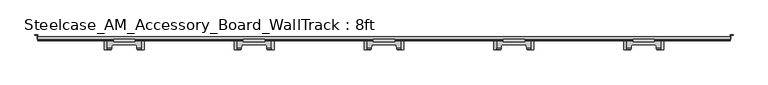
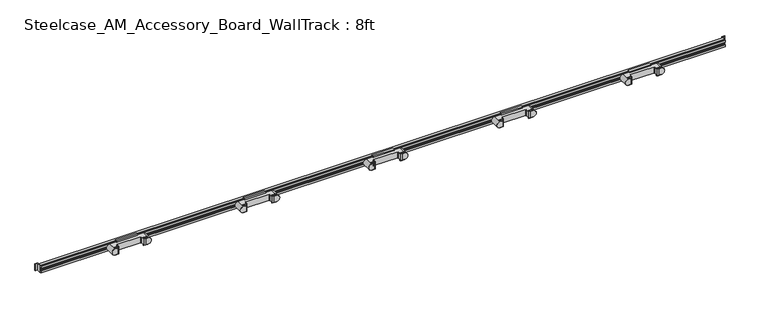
"""IFC4 building model written with IfcOpenShell, lengths in millimetres: furniture geometry, Steelcase_AM_Accessory_Board_WallTrack : 8ft."""

from ifc_helpers import new_model, si_unit, point, frame, frame_2d, origin, place, context, project, spatial, polyline, circle_curve, trimmed, segment, composite_curve, outline, extrude, source, transform, mapped, element, save
from ifc_brep_helpers import plane_surface, cylinder_surface, revolved_surface, advanced_brep


def steelcase_am_accessory_board_walltrack_8ft_30a8a2b9(model_context):
    return source(origin(), model_context, "Body", "SolidModel", [
        extrude(outline(composite_curve([segment(polyline([(1143.1909219, -104.4956), (1158.1396133, -104.4956), (1158.0187577, -105.8769861)]), True, "CONTINUOUS"), segment(trimmed(circle_curve(frame_2d((1153.2617288, -105.4608)), 4.7752), [point((1158.0187577, -105.8769861))], [point((1157.4948504, -107.6706))], False, "CARTESIAN"), True, "CONTINUOUS"), segment(polyline([(1157.4948504, -107.6706), (1143.1909219, -107.6706), (1143.1909219, -104.4956)]), True, "CONTINUOUS")], self_intersect=False)), frame((0.0, 0.0, 616.4072), z_axis=(0.0, 0.0, 1.0), x_axis=(1.0, 0.0, 0.0)), (0.0, 0.0, 1.0), 3.2512),
        extrude(outline(composite_curve([segment(polyline([(1262.3169219, -104.4956), (1262.3169219, -107.6706), (1248.0129934, -107.6706)]), True, "CONTINUOUS"), segment(trimmed(circle_curve(frame_2d((1252.246115, -105.4608)), 4.7752), [point((1248.0129934, -107.6706))], [point((1247.4890861, -105.8769861))], False, "CARTESIAN"), True, "CONTINUOUS"), segment(polyline([(1247.4890861, -105.8769861), (1247.3682305, -104.4956), (1262.3169219, -104.4956)]), True, "CONTINUOUS")], self_intersect=False)), frame((0.0, 0.0, 616.4072), z_axis=(0.0, 0.0, 1.0), x_axis=(1.0, 0.0, 0.0)), (0.0, 0.0, 1.0), 3.2512),
        extrude(outline(composite_curve([segment(polyline([(1143.1909219, -104.4956), (1158.1396133, -104.4956), (1158.0187577, -105.8769861)]), True, "CONTINUOUS"), segment(trimmed(circle_curve(frame_2d((1153.2617288, -105.4608)), 4.7752), [point((1158.0187577, -105.8769861))], [point((1157.4948504, -107.6706))], False, "CARTESIAN"), True, "CONTINUOUS"), segment(polyline([(1157.4948504, -107.6706), (1143.1909219, -107.6706), (1143.1909219, -104.4956)]), True, "CONTINUOUS")], self_intersect=False)), frame((0.0, 0.0, 641.604), z_axis=(0.0, 0.0, 1.0), x_axis=(1.0, 0.0, 0.0)), (0.0, 0.0, 1.0), 3.2512),
        extrude(outline(composite_curve([segment(polyline([(1262.3169219, -104.4956), (1262.3169219, -107.6706), (1248.0129934, -107.6706)]), True, "CONTINUOUS"), segment(trimmed(circle_curve(frame_2d((1252.246115, -105.4608)), 4.7752), [point((1248.0129934, -107.6706))], [point((1247.4890861, -105.8769861))], False, "CARTESIAN"), True, "CONTINUOUS"), segment(polyline([(1247.4890861, -105.8769861), (1247.3682305, -104.4956), (1262.3169219, -104.4956)]), True, "CONTINUOUS")], self_intersect=False)), frame((0.0, 0.0, 641.604), z_axis=(0.0, 0.0, 1.0), x_axis=(1.0, 0.0, 0.0)), (0.0, 0.0, 1.0), 3.2512),
        advanced_brep(
        [(1158.9842883, -94.8409207, 641.604), (1161.3374994, -92.6846, 641.604), (1244.1703444, -92.6846, 641.604), (1246.5235555, -94.8409207, 641.604), (1247.4890861, -105.8769861, 641.604), (1252.246115, -110.236, 641.604), (1261.9359219, -110.236, 641.604), (1261.9359219, -78.359, 641.604), (1143.5719219, -78.359, 641.604), (1143.5719219, -110.236, 641.604), (1153.2617288, -110.236, 641.604), (1158.0187577, -105.8769861, 641.604), (1158.9842883, -94.8409207, 619.6584), (1158.0187577, -105.8769861, 619.6584), (1153.2617288, -110.236, 619.6584), (1143.5719219, -110.236, 619.6584), (1143.5719219, -78.359, 619.6584), (1261.9359219, -78.359, 619.6584), (1261.9359219, -110.236, 619.6584), (1252.246115, -110.236, 619.6584), (1247.4890861, -105.8769861, 619.6584), (1246.5235555, -94.8409207, 619.6584), (1244.1703444, -92.6846, 619.6584), (1161.3374994, -92.6846, 619.6584), (1272.9087219, -110.236, 630.6312), (1272.9087219, -78.359, 630.6312), (1132.5991219, -78.359, 630.6312), (1132.5991219, -110.236, 630.6312)],
        [
            (0, 1, circle_curve(frame((1161.3374994, -95.0468, 641.604), z_axis=(0.0, 0.0, -1.0), x_axis=(-0.9961946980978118, 0.08715574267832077, 0.0)), 2.3622)),
            (1, 2),
            (2, 3, circle_curve(frame((1244.1703444, -95.0468, 641.604), z_axis=(0.0, 0.0, -1.0), x_axis=(0.0, 1.0, 0.0)), 2.3622)),
            (3, 4),
            (4, 5, circle_curve(frame((1252.246115, -105.4608, 641.604), z_axis=(0.0, 0.0, 1.0), x_axis=(-0.9961946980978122, -0.08715574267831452, 0.0)), 4.7752)),
            (5, 6),
            (6, 7),
            (7, 8),
            (8, 9),
            (9, 10),
            (10, 11, circle_curve(frame((1153.2617288, -105.4608, 641.604), z_axis=(0.0, 0.0, 1.0), x_axis=(0.0, -1.0, 0.0)), 4.7752)),
            (11, 0),
            (12, 13),
            (13, 14, circle_curve(frame((1153.2617288, -105.4608, 619.6584), z_axis=(0.0, 0.0, -1.0), x_axis=(0.0, -1.0, 0.0)), 4.7752)),
            (14, 15),
            (15, 16),
            (16, 17),
            (17, 18),
            (18, 19),
            (19, 20, circle_curve(frame((1252.246115, -105.4608, 619.6584), z_axis=(0.0, 0.0, -1.0), x_axis=(-0.9961946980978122, -0.08715574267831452, 0.0)), 4.7752)),
            (20, 21),
            (21, 22, circle_curve(frame((1244.1703444, -95.0468, 619.6584), z_axis=(0.0, 0.0, 1.0), x_axis=(0.0, 1.0, 0.0)), 2.3622)),
            (22, 23),
            (23, 12, circle_curve(frame((1161.3374994, -95.0468, 619.6584), z_axis=(0.0, 0.0, 1.0), x_axis=(-0.9961946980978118, 0.08715574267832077, 0.0)), 2.3622)),
            (0, 12),
            (23, 1),
            (22, 2),
            (21, 3),
            (20, 4),
            (19, 5),
            (18, 24, circle_curve(frame((1261.9359219, -110.236, 630.6312), z_axis=(0.0, -1.0, 0.0), x_axis=(-1.0, 0.0, 0.0)), 10.9728)),
            (24, 6, circle_curve(frame((1261.9359219, -110.236, 630.6312), z_axis=(0.0, -1.0, 0.0), x_axis=(-1.0, 0.0, 0.0)), 10.9728)),
            (7, 25, circle_curve(frame((1261.9359219, -78.359, 630.6312), z_axis=(0.0, 1.0, 0.0), x_axis=(-1.0, 0.0, 0.0)), 10.9728)),
            (25, 17, circle_curve(frame((1261.9359219, -78.359, 630.6312), z_axis=(0.0, 1.0, 0.0), x_axis=(-1.0, 0.0, 0.0)), 10.9728)),
            (16, 26, circle_curve(frame((1143.5719219, -78.359, 630.6312), z_axis=(0.0, 1.0, 0.0), x_axis=(1.0, 0.0, 0.0)), 10.9728)),
            (26, 8, circle_curve(frame((1143.5719219, -78.359, 630.6312), z_axis=(0.0, 1.0, 0.0), x_axis=(1.0, 0.0, 0.0)), 10.9728)),
            (14, 10),
            (9, 27, circle_curve(frame((1143.5719219, -110.236, 630.6312), z_axis=(0.0, -1.0, 0.0), x_axis=(1.0, 0.0, 0.0)), 10.9728)),
            (27, 15, circle_curve(frame((1143.5719219, -110.236, 630.6312), z_axis=(0.0, -1.0, 0.0), x_axis=(1.0, 0.0, 0.0)), 10.9728)),
            (13, 11),
        ],
        [
            plane_surface(frame((1158.9842883, -94.8409207, 641.604), z_axis=(0.0, 0.0, 1.0), x_axis=(0.08715574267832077, 0.9961946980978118, 0.0))),
            plane_surface(frame((1158.9842883, -94.8409207, 619.6584), z_axis=(0.0, 0.0, -1.0), x_axis=(-0.08715574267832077, -0.9961946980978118, 0.0))),
            revolved_surface(polyline([(1158.9842882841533, -94.84092070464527, 619.6584), (1158.9842882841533, -94.84092070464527, 641.604)]), (1161.3374994, -95.0468, 619.6584), (0.0, 0.0, -1.0)),
            plane_surface(frame((1161.3374994, -92.6846, 641.604), z_axis=(0.0, -1.0, 0.0), x_axis=(0.0, 0.0, -1.0))),
            revolved_surface(polyline([(1244.1703444, -92.6846, 619.6584), (1244.1703444, -92.6846, 641.604)]), (1244.1703444, -95.0468, 619.6584), (0.0, 0.0, -1.0)),
            plane_surface(frame((1246.5235555, -94.8409207, 641.604), z_axis=(-0.9961946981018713, -0.08715574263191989, 0.0), x_axis=(0.0, 0.0, -1.0))),
            cylinder_surface(frame((1252.246115, -105.4608, 619.6584), z_axis=(0.0, 0.0, 0.9999999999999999), x_axis=(-0.9961946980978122, -0.08715574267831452, 0.0)), 4.7752),
            plane_surface(frame((1252.246115, -110.236, 641.604), z_axis=(0.0, -1.0, 0.0), x_axis=(0.0, 0.0, -1.0))),
            plane_surface(frame((1272.9087219, -78.359, 641.604), z_axis=(0.0, 1.0, 0.0), x_axis=(0.0, 0.0, -1.0))),
            plane_surface(frame((1132.5991219, -110.236, 641.604), z_axis=(0.0, -1.0, 0.0), x_axis=(0.0, 0.0, -1.0))),
            cylinder_surface(frame((1153.2617288, -105.4608, 619.6584), z_axis=(0.0, 0.0, 1.0), x_axis=(0.0, -1.0, 0.0)), 4.7752),
            plane_surface(frame((1158.0187577, -105.8769861, 641.604), z_axis=(0.9961946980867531, -0.08715574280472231, 0.0), x_axis=(0.0, 0.0, -1.0))),
            cylinder_surface(frame((1143.5719219, -27.559, 630.6312), z_axis=(0.0, 1.0, 0.0), x_axis=(1.0, 0.0, 0.0)), 10.9728),
            cylinder_surface(frame((1261.9359219, -78.359, 630.6312), z_axis=(0.0, 1.0, 0.0), x_axis=(-1.0, 0.0, 0.0)), 10.9728),
        ],
        [
            (0, [[1, 2, 3, 4, 5, 6, 7, 8, 9, 10, 11, 12]]),
            (1, [[13, 14, 15, 16, 17, 18, 19, 20, 21, 22, 23, 24]]),
            (2, [[-1, 25, -24, 26]]),
            (3, [[-2, -26, -23, 27]]),
            (4, [[-3, -27, -22, 28]]),
            (5, [[-4, -28, -21, 29]]),
            (6, [[-5, -29, -20, 30]]),
            (7, [[-30, -19, 31, 32, -6]]),
            (8, [[-8, 33, 34, -17, 35, 36]]),
            (9, [[37, -10, 38, 39, -15]]),
            (10, [[-11, -37, -14, 40]]),
            (11, [[-12, -40, -13, -25]]),
            (12, [[-9, -36, -35, -16, -39, -38]]),
            (13, [[-7, -32, -31, -18, -34, -33]]),
        ],
    ),
        extrude(outline(polyline([(-81.661, 646.6636205), (-72.898, 646.6636205), (-72.898, 640.4094834), (-76.2, 640.4094834), (-76.2, 643.3616205), (-78.359, 643.3616205), (-78.359, 641.604), (-81.661, 641.604), (-81.661, 646.6636205)])), frame((1165.2889219, 0.0, 0.0), z_axis=(1.0, 0.0, 0.0), x_axis=(0.0, 1.0, 0.0)), (0.0, 0.0, 1.0), 74.93),
        extrude(outline(polyline([(-81.661, 614.6382676), (-81.661, 619.6978881), (-78.359, 619.6978881), (-78.359, 617.9402676), (-76.2, 617.9402676), (-76.2, 620.8924047), (-72.898, 620.8924047), (-72.898, 614.6382676), (-81.661, 614.6382676)])), frame((1165.2889219, 0.0, 0.0), z_axis=(1.0, 0.0, 0.0), x_axis=(0.0, 1.0, 0.0)), (0.0, 0.0, 1.0), 74.93),
        extrude(outline(composite_curve([segment(polyline([(685.9909219, -104.4956), (700.9396133, -104.4956), (700.8187577, -105.8769861)]), True, "CONTINUOUS"), segment(trimmed(circle_curve(frame_2d((696.0617288, -105.4608)), 4.7752), [point((700.8187577, -105.8769861))], [point((700.2948504, -107.6706))], False, "CARTESIAN"), True, "CONTINUOUS"), segment(polyline([(700.2948504, -107.6706), (685.9909219, -107.6706), (685.9909219, -104.4956)]), True, "CONTINUOUS")], self_intersect=False)), frame((0.0, 0.0, 616.4072), z_axis=(0.0, 0.0, 1.0), x_axis=(1.0, 0.0, 0.0)), (0.0, 0.0, 1.0), 3.2512),
        extrude(outline(composite_curve([segment(polyline([(805.1169219, -104.4956), (805.1169219, -107.6706), (790.8129934, -107.6706)]), True, "CONTINUOUS"), segment(trimmed(circle_curve(frame_2d((795.046115, -105.4608)), 4.7752), [point((790.8129934, -107.6706))], [point((790.2890861, -105.8769861))], False, "CARTESIAN"), True, "CONTINUOUS"), segment(polyline([(790.2890861, -105.8769861), (790.1682305, -104.4956), (805.1169219, -104.4956)]), True, "CONTINUOUS")], self_intersect=False)), frame((0.0, 0.0, 616.4072), z_axis=(0.0, 0.0, 1.0), x_axis=(1.0, 0.0, 0.0)), (0.0, 0.0, 1.0), 3.2512),
        extrude(outline(composite_curve([segment(polyline([(685.9909219, -104.4956), (700.9396133, -104.4956), (700.8187577, -105.8769861)]), True, "CONTINUOUS"), segment(trimmed(circle_curve(frame_2d((696.0617288, -105.4608)), 4.7752), [point((700.8187577, -105.8769861))], [point((700.2948504, -107.6706))], False, "CARTESIAN"), True, "CONTINUOUS"), segment(polyline([(700.2948504, -107.6706), (685.9909219, -107.6706), (685.9909219, -104.4956)]), True, "CONTINUOUS")], self_intersect=False)), frame((0.0, 0.0, 641.604), z_axis=(0.0, 0.0, 1.0), x_axis=(1.0, 0.0, 0.0)), (0.0, 0.0, 1.0), 3.2512),
        extrude(outline(composite_curve([segment(polyline([(805.1169219, -104.4956), (805.1169219, -107.6706), (790.8129934, -107.6706)]), True, "CONTINUOUS"), segment(trimmed(circle_curve(frame_2d((795.046115, -105.4608)), 4.7752), [point((790.8129934, -107.6706))], [point((790.2890861, -105.8769861))], False, "CARTESIAN"), True, "CONTINUOUS"), segment(polyline([(790.2890861, -105.8769861), (790.1682305, -104.4956), (805.1169219, -104.4956)]), True, "CONTINUOUS")], self_intersect=False)), frame((0.0, 0.0, 641.604), z_axis=(0.0, 0.0, 1.0), x_axis=(1.0, 0.0, 0.0)), (0.0, 0.0, 1.0), 3.2512),
        advanced_brep(
        [(701.7842883, -94.8409207, 641.604), (704.1374994, -92.6846, 641.604), (786.9703444, -92.6846, 641.604), (789.3235555, -94.8409207, 641.604), (790.2890861, -105.8769861, 641.604), (795.046115, -110.236, 641.604), (804.7359219, -110.236, 641.604), (804.7359219, -78.359, 641.604), (686.3719219, -78.359, 641.604), (686.3719219, -110.236, 641.604), (696.0617288, -110.236, 641.604), (700.8187577, -105.8769861, 641.604), (701.7842883, -94.8409207, 619.6584), (700.8187577, -105.8769861, 619.6584), (696.0617288, -110.236, 619.6584), (686.3719219, -110.236, 619.6584), (686.3719219, -78.359, 619.6584), (804.7359219, -78.359, 619.6584), (804.7359219, -110.236, 619.6584), (795.046115, -110.236, 619.6584), (790.2890861, -105.8769861, 619.6584), (789.3235555, -94.8409207, 619.6584), (786.9703444, -92.6846, 619.6584), (704.1374994, -92.6846, 619.6584), (815.7087219, -110.236, 630.6312), (815.7087219, -78.359, 630.6312), (675.3991219, -78.359, 630.6312), (675.3991219, -110.236, 630.6312)],
        [
            (0, 1, circle_curve(frame((704.1374994, -95.0468, 641.604), z_axis=(0.0, 0.0, -1.0), x_axis=(-0.9961946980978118, 0.08715574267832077, 0.0)), 2.3622)),
            (1, 2),
            (2, 3, circle_curve(frame((786.9703444, -95.0468, 641.604), z_axis=(0.0, 0.0, -1.0), x_axis=(0.0, 1.0, 0.0)), 2.3622)),
            (3, 4),
            (4, 5, circle_curve(frame((795.046115, -105.4608, 641.604), z_axis=(0.0, 0.0, 1.0), x_axis=(-0.9961946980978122, -0.08715574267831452, 0.0)), 4.7752)),
            (5, 6),
            (6, 7),
            (7, 8),
            (8, 9),
            (9, 10),
            (10, 11, circle_curve(frame((696.0617288, -105.4608, 641.604), z_axis=(0.0, 0.0, 1.0), x_axis=(0.0, -1.0, 0.0)), 4.7752)),
            (11, 0),
            (12, 13),
            (13, 14, circle_curve(frame((696.0617288, -105.4608, 619.6584), z_axis=(0.0, 0.0, -1.0), x_axis=(0.0, -1.0, 0.0)), 4.7752)),
            (14, 15),
            (15, 16),
            (16, 17),
            (17, 18),
            (18, 19),
            (19, 20, circle_curve(frame((795.046115, -105.4608, 619.6584), z_axis=(0.0, 0.0, -1.0), x_axis=(-0.9961946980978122, -0.08715574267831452, 0.0)), 4.7752)),
            (20, 21),
            (21, 22, circle_curve(frame((786.9703444, -95.0468, 619.6584), z_axis=(0.0, 0.0, 1.0), x_axis=(0.0, 1.0, 0.0)), 2.3622)),
            (22, 23),
            (23, 12, circle_curve(frame((704.1374994, -95.0468, 619.6584), z_axis=(0.0, 0.0, 1.0), x_axis=(-0.9961946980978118, 0.08715574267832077, 0.0)), 2.3622)),
            (0, 12),
            (23, 1),
            (22, 2),
            (21, 3),
            (20, 4),
            (19, 5),
            (18, 24, circle_curve(frame((804.7359219, -110.236, 630.6312), z_axis=(0.0, -1.0, 0.0), x_axis=(-1.0, 0.0, 0.0)), 10.9728)),
            (24, 6, circle_curve(frame((804.7359219, -110.236, 630.6312), z_axis=(0.0, -1.0, 0.0), x_axis=(-1.0, 0.0, 0.0)), 10.9728)),
            (7, 25, circle_curve(frame((804.7359219, -78.359, 630.6312), z_axis=(0.0, 1.0, 0.0), x_axis=(-1.0, 0.0, 0.0)), 10.9728)),
            (25, 17, circle_curve(frame((804.7359219, -78.359, 630.6312), z_axis=(0.0, 1.0, 0.0), x_axis=(-1.0, 0.0, 0.0)), 10.9728)),
            (16, 26, circle_curve(frame((686.3719219, -78.359, 630.6312), z_axis=(0.0, 1.0, 0.0), x_axis=(1.0, 0.0, 0.0)), 10.9728)),
            (26, 8, circle_curve(frame((686.3719219, -78.359, 630.6312), z_axis=(0.0, 1.0, 0.0), x_axis=(1.0, 0.0, 0.0)), 10.9728)),
            (14, 10),
            (9, 27, circle_curve(frame((686.3719219, -110.236, 630.6312), z_axis=(0.0, -1.0, 0.0), x_axis=(1.0, 0.0, 0.0)), 10.9728)),
            (27, 15, circle_curve(frame((686.3719219, -110.236, 630.6312), z_axis=(0.0, -1.0, 0.0), x_axis=(1.0, 0.0, 0.0)), 10.9728)),
            (13, 11),
        ],
        [
            plane_surface(frame((701.7842883, -94.8409207, 641.604), z_axis=(0.0, 0.0, 1.0), x_axis=(0.08715574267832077, 0.9961946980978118, 0.0))),
            plane_surface(frame((701.7842883, -94.8409207, 619.6584), z_axis=(0.0, 0.0, -1.0), x_axis=(-0.08715574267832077, -0.9961946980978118, 0.0))),
            revolved_surface(polyline([(701.7842882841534, -94.84092070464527, 619.6584), (701.7842882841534, -94.84092070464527, 641.604)]), (704.1374994, -95.0468, 619.6584), (0.0, 0.0, -1.0)),
            plane_surface(frame((704.1374994, -92.6846, 641.604), z_axis=(0.0, -1.0, 0.0), x_axis=(0.0, 0.0, -1.0))),
            revolved_surface(polyline([(786.9703444, -92.6846, 619.6584), (786.9703444, -92.6846, 641.604)]), (786.9703444, -95.0468, 619.6584), (0.0, 0.0, -1.0)),
            plane_surface(frame((789.3235555, -94.8409207, 641.604), z_axis=(-0.9961946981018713, -0.08715574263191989, 0.0), x_axis=(0.0, 0.0, -1.0))),
            cylinder_surface(frame((795.046115, -105.4608, 619.6584), z_axis=(0.0, 0.0, 0.9999999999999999), x_axis=(-0.9961946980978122, -0.08715574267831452, 0.0)), 4.7752),
            plane_surface(frame((795.046115, -110.236, 641.604), z_axis=(0.0, -1.0, 0.0), x_axis=(0.0, 0.0, -1.0))),
            plane_surface(frame((815.7087219, -78.359, 641.604), z_axis=(0.0, 1.0, 0.0), x_axis=(0.0, 0.0, -1.0))),
            plane_surface(frame((675.3991219, -110.236, 641.604), z_axis=(0.0, -1.0, 0.0), x_axis=(0.0, 0.0, -1.0))),
            cylinder_surface(frame((696.0617288, -105.4608, 619.6584), z_axis=(0.0, 0.0, 1.0), x_axis=(0.0, -1.0, 0.0)), 4.7752),
            plane_surface(frame((700.8187577, -105.8769861, 641.604), z_axis=(0.9961946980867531, -0.08715574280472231, 0.0), x_axis=(0.0, 0.0, -1.0))),
            cylinder_surface(frame((686.3719219, -27.559, 630.6312), z_axis=(0.0, 1.0, 0.0), x_axis=(1.0, 0.0, 0.0)), 10.9728),
            cylinder_surface(frame((804.7359219, -78.359, 630.6312), z_axis=(0.0, 1.0, 0.0), x_axis=(-1.0, 0.0, 0.0)), 10.9728),
        ],
        [
            (0, [[1, 2, 3, 4, 5, 6, 7, 8, 9, 10, 11, 12]]),
            (1, [[13, 14, 15, 16, 17, 18, 19, 20, 21, 22, 23, 24]]),
            (2, [[-1, 25, -24, 26]]),
            (3, [[-2, -26, -23, 27]]),
            (4, [[-3, -27, -22, 28]]),
            (5, [[-4, -28, -21, 29]]),
            (6, [[-5, -29, -20, 30]]),
            (7, [[-30, -19, 31, 32, -6]]),
            (8, [[-8, 33, 34, -17, 35, 36]]),
            (9, [[37, -10, 38, 39, -15]]),
            (10, [[-11, -37, -14, 40]]),
            (11, [[-12, -40, -13, -25]]),
            (12, [[-9, -36, -35, -16, -39, -38]]),
            (13, [[-7, -32, -31, -18, -34, -33]]),
        ],
    ),
        extrude(outline(polyline([(-81.661, 646.6636205), (-72.898, 646.6636205), (-72.898, 640.4094834), (-76.2, 640.4094834), (-76.2, 643.3616205), (-78.359, 643.3616205), (-78.359, 641.604), (-81.661, 641.604), (-81.661, 646.6636205)])), frame((708.0889219, 0.0, 0.0), z_axis=(1.0, 0.0, 0.0), x_axis=(0.0, 1.0, 0.0)), (0.0, 0.0, 1.0), 74.93),
        extrude(outline(polyline([(-81.661, 614.6382676), (-81.661, 619.6978881), (-78.359, 619.6978881), (-78.359, 617.9402676), (-76.2, 617.9402676), (-76.2, 620.8924047), (-72.898, 620.8924047), (-72.898, 614.6382676), (-81.661, 614.6382676)])), frame((708.0889219, 0.0, 0.0), z_axis=(1.0, 0.0, 0.0), x_axis=(0.0, 1.0, 0.0)), (0.0, 0.0, 1.0), 74.93),
        extrude(outline(composite_curve([segment(polyline([(228.7909219, -104.4956), (243.7396133, -104.4956), (243.6187577, -105.8769861)]), True, "CONTINUOUS"), segment(trimmed(circle_curve(frame_2d((238.8617288, -105.4608)), 4.7752), [point((243.6187577, -105.8769861))], [point((243.0948504, -107.6706))], False, "CARTESIAN"), True, "CONTINUOUS"), segment(polyline([(243.0948504, -107.6706), (228.7909219, -107.6706), (228.7909219, -104.4956)]), True, "CONTINUOUS")], self_intersect=False)), frame((0.0, 0.0, 616.4072), z_axis=(0.0, 0.0, 1.0), x_axis=(1.0, 0.0, 0.0)), (0.0, 0.0, 1.0), 3.2512),
        extrude(outline(composite_curve([segment(polyline([(347.9169219, -104.4956), (347.9169219, -107.6706), (333.6129934, -107.6706)]), True, "CONTINUOUS"), segment(trimmed(circle_curve(frame_2d((337.846115, -105.4608)), 4.7752), [point((333.6129934, -107.6706))], [point((333.0890861, -105.8769861))], False, "CARTESIAN"), True, "CONTINUOUS"), segment(polyline([(333.0890861, -105.8769861), (332.9682305, -104.4956), (347.9169219, -104.4956)]), True, "CONTINUOUS")], self_intersect=False)), frame((0.0, 0.0, 616.4072), z_axis=(0.0, 0.0, 1.0), x_axis=(1.0, 0.0, 0.0)), (0.0, 0.0, 1.0), 3.2512),
        extrude(outline(composite_curve([segment(polyline([(228.7909219, -104.4956), (243.7396133, -104.4956), (243.6187577, -105.8769861)]), True, "CONTINUOUS"), segment(trimmed(circle_curve(frame_2d((238.8617288, -105.4608)), 4.7752), [point((243.6187577, -105.8769861))], [point((243.0948504, -107.6706))], False, "CARTESIAN"), True, "CONTINUOUS"), segment(polyline([(243.0948504, -107.6706), (228.7909219, -107.6706), (228.7909219, -104.4956)]), True, "CONTINUOUS")], self_intersect=False)), frame((0.0, 0.0, 641.604), z_axis=(0.0, 0.0, 1.0), x_axis=(1.0, 0.0, 0.0)), (0.0, 0.0, 1.0), 3.2512),
        extrude(outline(composite_curve([segment(polyline([(347.9169219, -104.4956), (347.9169219, -107.6706), (333.6129934, -107.6706)]), True, "CONTINUOUS"), segment(trimmed(circle_curve(frame_2d((337.846115, -105.4608)), 4.7752), [point((333.6129934, -107.6706))], [point((333.0890861, -105.8769861))], False, "CARTESIAN"), True, "CONTINUOUS"), segment(polyline([(333.0890861, -105.8769861), (332.9682305, -104.4956), (347.9169219, -104.4956)]), True, "CONTINUOUS")], self_intersect=False)), frame((0.0, 0.0, 641.604), z_axis=(0.0, 0.0, 1.0), x_axis=(1.0, 0.0, 0.0)), (0.0, 0.0, 1.0), 3.2512),
        advanced_brep(
        [(244.5842883, -94.8409207, 641.604), (246.9374994, -92.6846, 641.604), (329.7703444, -92.6846, 641.604), (332.1235555, -94.8409207, 641.604), (333.0890861, -105.8769861, 641.604), (337.846115, -110.236, 641.604), (347.5359219, -110.236, 641.604), (347.5359219, -78.359, 641.604), (229.1719219, -78.359, 641.604), (229.1719219, -110.236, 641.604), (238.8617288, -110.236, 641.604), (243.6187577, -105.8769861, 641.604), (244.5842883, -94.8409207, 619.6584), (243.6187577, -105.8769861, 619.6584), (238.8617288, -110.236, 619.6584), (229.1719219, -110.236, 619.6584), (229.1719219, -78.359, 619.6584), (347.5359219, -78.359, 619.6584), (347.5359219, -110.236, 619.6584), (337.846115, -110.236, 619.6584), (333.0890861, -105.8769861, 619.6584), (332.1235555, -94.8409207, 619.6584), (329.7703444, -92.6846, 619.6584), (246.9374994, -92.6846, 619.6584), (358.5087219, -110.236, 630.6312), (358.5087219, -78.359, 630.6312), (218.1991219, -78.359, 630.6312), (218.1991219, -110.236, 630.6312)],
        [
            (0, 1, circle_curve(frame((246.9374994, -95.0468, 641.604), z_axis=(0.0, 0.0, -1.0), x_axis=(-0.9961946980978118, 0.08715574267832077, 0.0)), 2.3622)),
            (1, 2),
            (2, 3, circle_curve(frame((329.7703444, -95.0468, 641.604), z_axis=(0.0, 0.0, -1.0), x_axis=(0.0, 1.0, 0.0)), 2.3622)),
            (3, 4),
            (4, 5, circle_curve(frame((337.846115, -105.4608, 641.604), z_axis=(0.0, 0.0, 1.0), x_axis=(-0.9961946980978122, -0.08715574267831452, 0.0)), 4.7752)),
            (5, 6),
            (6, 7),
            (7, 8),
            (8, 9),
            (9, 10),
            (10, 11, circle_curve(frame((238.8617288, -105.4608, 641.604), z_axis=(0.0, 0.0, 1.0), x_axis=(0.0, -1.0, 0.0)), 4.7752)),
            (11, 0),
            (12, 13),
            (13, 14, circle_curve(frame((238.8617288, -105.4608, 619.6584), z_axis=(0.0, 0.0, -1.0), x_axis=(0.0, -1.0, 0.0)), 4.7752)),
            (14, 15),
            (15, 16),
            (16, 17),
            (17, 18),
            (18, 19),
            (19, 20, circle_curve(frame((337.846115, -105.4608, 619.6584), z_axis=(0.0, 0.0, -1.0), x_axis=(-0.9961946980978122, -0.08715574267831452, 0.0)), 4.7752)),
            (20, 21),
            (21, 22, circle_curve(frame((329.7703444, -95.0468, 619.6584), z_axis=(0.0, 0.0, 1.0), x_axis=(0.0, 1.0, 0.0)), 2.3622)),
            (22, 23),
            (23, 12, circle_curve(frame((246.9374994, -95.0468, 619.6584), z_axis=(0.0, 0.0, 1.0), x_axis=(-0.9961946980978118, 0.08715574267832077, 0.0)), 2.3622)),
            (0, 12),
            (23, 1),
            (22, 2),
            (21, 3),
            (20, 4),
            (19, 5),
            (18, 24, circle_curve(frame((347.5359219, -110.236, 630.6312), z_axis=(0.0, -1.0, 0.0), x_axis=(-1.0, 0.0, 0.0)), 10.9728)),
            (24, 6, circle_curve(frame((347.5359219, -110.236, 630.6312), z_axis=(0.0, -1.0, 0.0), x_axis=(-1.0, 0.0, 0.0)), 10.9728)),
            (7, 25, circle_curve(frame((347.5359219, -78.359, 630.6312), z_axis=(0.0, 1.0, 0.0), x_axis=(-1.0, 0.0, 0.0)), 10.9728)),
            (25, 17, circle_curve(frame((347.5359219, -78.359, 630.6312), z_axis=(0.0, 1.0, 0.0), x_axis=(-1.0, 0.0, 0.0)), 10.9728)),
            (16, 26, circle_curve(frame((229.1719219, -78.359, 630.6312), z_axis=(0.0, 1.0, 0.0), x_axis=(1.0, 0.0, 0.0)), 10.9728)),
            (26, 8, circle_curve(frame((229.1719219, -78.359, 630.6312), z_axis=(0.0, 1.0, 0.0), x_axis=(1.0, 0.0, 0.0)), 10.9728)),
            (14, 10),
            (9, 27, circle_curve(frame((229.1719219, -110.236, 630.6312), z_axis=(0.0, -1.0, 0.0), x_axis=(1.0, 0.0, 0.0)), 10.9728)),
            (27, 15, circle_curve(frame((229.1719219, -110.236, 630.6312), z_axis=(0.0, -1.0, 0.0), x_axis=(1.0, 0.0, 0.0)), 10.9728)),
            (13, 11),
        ],
        [
            plane_surface(frame((244.5842883, -94.8409207, 641.604), z_axis=(0.0, 0.0, 1.0), x_axis=(0.08715574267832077, 0.9961946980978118, 0.0))),
            plane_surface(frame((244.5842883, -94.8409207, 619.6584), z_axis=(0.0, 0.0, -1.0), x_axis=(-0.08715574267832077, -0.9961946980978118, 0.0))),
            revolved_surface(polyline([(244.58428828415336, -94.84092070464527, 619.6584), (244.58428828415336, -94.84092070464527, 641.604)]), (246.9374994, -95.0468, 619.6584), (0.0, 0.0, -1.0)),
            plane_surface(frame((246.9374994, -92.6846, 641.604), z_axis=(0.0, -1.0, 0.0), x_axis=(0.0, 0.0, -1.0))),
            revolved_surface(polyline([(329.7703444, -92.6846, 619.6584), (329.7703444, -92.6846, 641.604)]), (329.7703444, -95.0468, 619.6584), (0.0, 0.0, -1.0)),
            plane_surface(frame((332.1235555, -94.8409207, 641.604), z_axis=(-0.9961946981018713, -0.08715574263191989, 0.0), x_axis=(0.0, 0.0, -1.0))),
            cylinder_surface(frame((337.846115, -105.4608, 619.6584), z_axis=(0.0, 0.0, 0.9999999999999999), x_axis=(-0.9961946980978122, -0.08715574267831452, 0.0)), 4.7752),
            plane_surface(frame((337.846115, -110.236, 641.604), z_axis=(0.0, -1.0, 0.0), x_axis=(0.0, 0.0, -1.0))),
            plane_surface(frame((358.5087219, -78.359, 641.604), z_axis=(0.0, 1.0, 0.0), x_axis=(0.0, 0.0, -1.0))),
            plane_surface(frame((218.1991219, -110.236, 641.604), z_axis=(0.0, -1.0, 0.0), x_axis=(0.0, 0.0, -1.0))),
            cylinder_surface(frame((238.8617288, -105.4608, 619.6584), z_axis=(0.0, 0.0, 1.0), x_axis=(0.0, -1.0, 0.0)), 4.7752),
            plane_surface(frame((243.6187577, -105.8769861, 641.604), z_axis=(0.9961946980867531, -0.08715574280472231, 0.0), x_axis=(0.0, 0.0, -1.0))),
            cylinder_surface(frame((229.1719219, -27.559, 630.6312), z_axis=(0.0, 1.0, 0.0), x_axis=(1.0, 0.0, 0.0)), 10.9728),
            cylinder_surface(frame((347.5359219, -78.359, 630.6312), z_axis=(0.0, 1.0, 0.0), x_axis=(-1.0, 0.0, 0.0)), 10.9728),
        ],
        [
            (0, [[1, 2, 3, 4, 5, 6, 7, 8, 9, 10, 11, 12]]),
            (1, [[13, 14, 15, 16, 17, 18, 19, 20, 21, 22, 23, 24]]),
            (2, [[-1, 25, -24, 26]]),
            (3, [[-2, -26, -23, 27]]),
            (4, [[-3, -27, -22, 28]]),
            (5, [[-4, -28, -21, 29]]),
            (6, [[-5, -29, -20, 30]]),
            (7, [[-30, -19, 31, 32, -6]]),
            (8, [[-8, 33, 34, -17, 35, 36]]),
            (9, [[37, -10, 38, 39, -15]]),
            (10, [[-11, -37, -14, 40]]),
            (11, [[-12, -40, -13, -25]]),
            (12, [[-9, -36, -35, -16, -39, -38]]),
            (13, [[-7, -32, -31, -18, -34, -33]]),
        ],
    ),
        extrude(outline(polyline([(-81.661, 646.6636205), (-72.898, 646.6636205), (-72.898, 640.4094834), (-76.2, 640.4094834), (-76.2, 643.3616205), (-78.359, 643.3616205), (-78.359, 641.604), (-81.661, 641.604), (-81.661, 646.6636205)])), frame((250.8889219, 0.0, 0.0), z_axis=(1.0, 0.0, 0.0), x_axis=(0.0, 1.0, 0.0)), (0.0, 0.0, 1.0), 74.93),
        extrude(outline(polyline([(-81.661, 614.6382676), (-81.661, 619.6978881), (-78.359, 619.6978881), (-78.359, 617.9402676), (-76.2, 617.9402676), (-76.2, 620.8924047), (-72.898, 620.8924047), (-72.898, 614.6382676), (-81.661, 614.6382676)])), frame((250.8889219, 0.0, 0.0), z_axis=(1.0, 0.0, 0.0), x_axis=(0.0, 1.0, 0.0)), (0.0, 0.0, 1.0), 74.93),
        extrude(outline(composite_curve([segment(polyline([(-228.4090781, -104.4956), (-213.4603867, -104.4956), (-213.5812423, -105.8769861)]), True, "CONTINUOUS"), segment(trimmed(circle_curve(frame_2d((-218.3382712, -105.4608)), 4.7752), [point((-213.5812423, -105.8769861))], [point((-214.1051496, -107.6706))], False, "CARTESIAN"), True, "CONTINUOUS"), segment(polyline([(-214.1051496, -107.6706), (-228.4090781, -107.6706), (-228.4090781, -104.4956)]), True, "CONTINUOUS")], self_intersect=False)), frame((0.0, 0.0, 616.4072), z_axis=(0.0, 0.0, 1.0), x_axis=(1.0, 0.0, 0.0)), (0.0, 0.0, 1.0), 3.2512),
        extrude(outline(composite_curve([segment(polyline([(-109.2830781, -104.4956), (-109.2830781, -107.6706), (-123.5870066, -107.6706)]), True, "CONTINUOUS"), segment(trimmed(circle_curve(frame_2d((-119.353885, -105.4608)), 4.7752), [point((-123.5870066, -107.6706))], [point((-124.1109139, -105.8769861))], False, "CARTESIAN"), True, "CONTINUOUS"), segment(polyline([(-124.1109139, -105.8769861), (-124.2317695, -104.4956), (-109.2830781, -104.4956)]), True, "CONTINUOUS")], self_intersect=False)), frame((0.0, 0.0, 616.4072), z_axis=(0.0, 0.0, 1.0), x_axis=(1.0, 0.0, 0.0)), (0.0, 0.0, 1.0), 3.2512),
        extrude(outline(composite_curve([segment(polyline([(-228.4090781, -104.4956), (-213.4603867, -104.4956), (-213.5812423, -105.8769861)]), True, "CONTINUOUS"), segment(trimmed(circle_curve(frame_2d((-218.3382712, -105.4608)), 4.7752), [point((-213.5812423, -105.8769861))], [point((-214.1051496, -107.6706))], False, "CARTESIAN"), True, "CONTINUOUS"), segment(polyline([(-214.1051496, -107.6706), (-228.4090781, -107.6706), (-228.4090781, -104.4956)]), True, "CONTINUOUS")], self_intersect=False)), frame((0.0, 0.0, 641.604), z_axis=(0.0, 0.0, 1.0), x_axis=(1.0, 0.0, 0.0)), (0.0, 0.0, 1.0), 3.2512),
        extrude(outline(composite_curve([segment(polyline([(-109.2830781, -104.4956), (-109.2830781, -107.6706), (-123.5870066, -107.6706)]), True, "CONTINUOUS"), segment(trimmed(circle_curve(frame_2d((-119.353885, -105.4608)), 4.7752), [point((-123.5870066, -107.6706))], [point((-124.1109139, -105.8769861))], False, "CARTESIAN"), True, "CONTINUOUS"), segment(polyline([(-124.1109139, -105.8769861), (-124.2317695, -104.4956), (-109.2830781, -104.4956)]), True, "CONTINUOUS")], self_intersect=False)), frame((0.0, 0.0, 641.604), z_axis=(0.0, 0.0, 1.0), x_axis=(1.0, 0.0, 0.0)), (0.0, 0.0, 1.0), 3.2512),
        advanced_brep(
        [(-212.6157117, -94.8409207, 641.604), (-210.2625006, -92.6846, 641.604), (-127.4296556, -92.6846, 641.604), (-125.0764445, -94.8409207, 641.604), (-124.1109139, -105.8769861, 641.604), (-119.353885, -110.236, 641.604), (-109.6640781, -110.236, 641.604), (-109.6640781, -78.359, 641.604), (-228.0280781, -78.359, 641.604), (-228.0280781, -110.236, 641.604), (-218.3382712, -110.236, 641.604), (-213.5812423, -105.8769861, 641.604), (-212.6157117, -94.8409207, 619.6584), (-213.5812423, -105.8769861, 619.6584), (-218.3382712, -110.236, 619.6584), (-228.0280781, -110.236, 619.6584), (-228.0280781, -78.359, 619.6584), (-109.6640781, -78.359, 619.6584), (-109.6640781, -110.236, 619.6584), (-119.353885, -110.236, 619.6584), (-124.1109139, -105.8769861, 619.6584), (-125.0764445, -94.8409207, 619.6584), (-127.4296556, -92.6846, 619.6584), (-210.2625006, -92.6846, 619.6584), (-98.6912781, -110.236, 630.6312), (-98.6912781, -78.359, 630.6312), (-239.0008781, -78.359, 630.6312), (-239.0008781, -110.236, 630.6312)],
        [
            (0, 1, circle_curve(frame((-210.2625006, -95.0468, 641.604), z_axis=(0.0, 0.0, -1.0), x_axis=(-0.9961946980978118, 0.08715574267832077, 0.0)), 2.3622)),
            (1, 2),
            (2, 3, circle_curve(frame((-127.4296556, -95.0468, 641.604), z_axis=(0.0, 0.0, -1.0), x_axis=(0.0, 1.0, 0.0)), 2.3622)),
            (3, 4),
            (4, 5, circle_curve(frame((-119.353885, -105.4608, 641.604), z_axis=(0.0, 0.0, 1.0), x_axis=(-0.9961946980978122, -0.08715574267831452, 0.0)), 4.7752)),
            (5, 6),
            (6, 7),
            (7, 8),
            (8, 9),
            (9, 10),
            (10, 11, circle_curve(frame((-218.3382712, -105.4608, 641.604), z_axis=(0.0, 0.0, 1.0), x_axis=(0.0, -1.0, 0.0)), 4.7752)),
            (11, 0),
            (12, 13),
            (13, 14, circle_curve(frame((-218.3382712, -105.4608, 619.6584), z_axis=(0.0, 0.0, -1.0), x_axis=(0.0, -1.0, 0.0)), 4.7752)),
            (14, 15),
            (15, 16),
            (16, 17),
            (17, 18),
            (18, 19),
            (19, 20, circle_curve(frame((-119.353885, -105.4608, 619.6584), z_axis=(0.0, 0.0, -1.0), x_axis=(-0.9961946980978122, -0.08715574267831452, 0.0)), 4.7752)),
            (20, 21),
            (21, 22, circle_curve(frame((-127.4296556, -95.0468, 619.6584), z_axis=(0.0, 0.0, 1.0), x_axis=(0.0, 1.0, 0.0)), 2.3622)),
            (22, 23),
            (23, 12, circle_curve(frame((-210.2625006, -95.0468, 619.6584), z_axis=(0.0, 0.0, 1.0), x_axis=(-0.9961946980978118, 0.08715574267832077, 0.0)), 2.3622)),
            (0, 12),
            (23, 1),
            (22, 2),
            (21, 3),
            (20, 4),
            (19, 5),
            (18, 24, circle_curve(frame((-109.6640781, -110.236, 630.6312), z_axis=(0.0, -1.0, 0.0), x_axis=(-1.0, 0.0, 0.0)), 10.9728)),
            (24, 6, circle_curve(frame((-109.6640781, -110.236, 630.6312), z_axis=(0.0, -1.0, 0.0), x_axis=(-1.0, 0.0, 0.0)), 10.9728)),
            (7, 25, circle_curve(frame((-109.6640781, -78.359, 630.6312), z_axis=(0.0, 1.0, 0.0), x_axis=(-1.0, 0.0, 0.0)), 10.9728)),
            (25, 17, circle_curve(frame((-109.6640781, -78.359, 630.6312), z_axis=(0.0, 1.0, 0.0), x_axis=(-1.0, 0.0, 0.0)), 10.9728)),
            (16, 26, circle_curve(frame((-228.0280781, -78.359, 630.6312), z_axis=(0.0, 1.0, 0.0), x_axis=(1.0, 0.0, 0.0)), 10.9728)),
            (26, 8, circle_curve(frame((-228.0280781, -78.359, 630.6312), z_axis=(0.0, 1.0, 0.0), x_axis=(1.0, 0.0, 0.0)), 10.9728)),
            (14, 10),
            (9, 27, circle_curve(frame((-228.0280781, -110.236, 630.6312), z_axis=(0.0, -1.0, 0.0), x_axis=(1.0, 0.0, 0.0)), 10.9728)),
            (27, 15, circle_curve(frame((-228.0280781, -110.236, 630.6312), z_axis=(0.0, -1.0, 0.0), x_axis=(1.0, 0.0, 0.0)), 10.9728)),
            (13, 11),
        ],
        [
            plane_surface(frame((-212.6157117, -94.8409207, 641.604), z_axis=(0.0, 0.0, 1.0), x_axis=(0.08715574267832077, 0.9961946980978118, 0.0))),
            plane_surface(frame((-212.6157117, -94.8409207, 619.6584), z_axis=(0.0, 0.0, -1.0), x_axis=(-0.08715574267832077, -0.9961946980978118, 0.0))),
            revolved_surface(polyline([(-212.61571171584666, -94.84092070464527, 619.6584), (-212.61571171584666, -94.84092070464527, 641.604)]), (-210.2625006, -95.0468, 619.6584), (0.0, 0.0, -1.0)),
            plane_surface(frame((-210.2625006, -92.6846, 641.604), z_axis=(0.0, -1.0, 0.0), x_axis=(0.0, 0.0, -1.0))),
            revolved_surface(polyline([(-127.4296556, -92.6846, 619.6584), (-127.4296556, -92.6846, 641.604)]), (-127.4296556, -95.0468, 619.6584), (0.0, 0.0, -1.0)),
            plane_surface(frame((-125.0764445, -94.8409207, 641.604), z_axis=(-0.9961946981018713, -0.08715574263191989, 0.0), x_axis=(0.0, 0.0, -1.0))),
            cylinder_surface(frame((-119.353885, -105.4608, 619.6584), z_axis=(0.0, 0.0, 0.9999999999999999), x_axis=(-0.9961946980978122, -0.08715574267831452, 0.0)), 4.7752),
            plane_surface(frame((-119.353885, -110.236, 641.604), z_axis=(0.0, -1.0, 0.0), x_axis=(0.0, 0.0, -1.0))),
            plane_surface(frame((-98.6912781, -78.359, 641.604), z_axis=(0.0, 1.0, 0.0), x_axis=(0.0, 0.0, -1.0))),
            plane_surface(frame((-239.0008781, -110.236, 641.604), z_axis=(0.0, -1.0, 0.0), x_axis=(0.0, 0.0, -1.0))),
            cylinder_surface(frame((-218.3382712, -105.4608, 619.6584), z_axis=(0.0, 0.0, 1.0), x_axis=(0.0, -1.0, 0.0)), 4.7752),
            plane_surface(frame((-213.5812423, -105.8769861, 641.604), z_axis=(0.9961946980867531, -0.08715574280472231, 0.0), x_axis=(0.0, 0.0, -1.0))),
            cylinder_surface(frame((-228.0280781, -27.559, 630.6312), z_axis=(0.0, 1.0, 0.0), x_axis=(1.0, 0.0, 0.0)), 10.9728),
            cylinder_surface(frame((-109.6640781, -78.359, 630.6312), z_axis=(0.0, 1.0, 0.0), x_axis=(-1.0, 0.0, 0.0)), 10.9728),
        ],
        [
            (0, [[1, 2, 3, 4, 5, 6, 7, 8, 9, 10, 11, 12]]),
            (1, [[13, 14, 15, 16, 17, 18, 19, 20, 21, 22, 23, 24]]),
            (2, [[-1, 25, -24, 26]]),
            (3, [[-2, -26, -23, 27]]),
            (4, [[-3, -27, -22, 28]]),
            (5, [[-4, -28, -21, 29]]),
            (6, [[-5, -29, -20, 30]]),
            (7, [[-30, -19, 31, 32, -6]]),
            (8, [[-8, 33, 34, -17, 35, 36]]),
            (9, [[37, -10, 38, 39, -15]]),
            (10, [[-11, -37, -14, 40]]),
            (11, [[-12, -40, -13, -25]]),
            (12, [[-9, -36, -35, -16, -39, -38]]),
            (13, [[-7, -32, -31, -18, -34, -33]]),
        ],
    ),
        extrude(outline(polyline([(-81.661, 646.6636205), (-72.898, 646.6636205), (-72.898, 640.4094834), (-76.2, 640.4094834), (-76.2, 643.3616205), (-78.359, 643.3616205), (-78.359, 641.604), (-81.661, 641.604), (-81.661, 646.6636205)])), frame((-206.3110781, 0.0, 0.0), z_axis=(1.0, 0.0, 0.0), x_axis=(0.0, 1.0, 0.0)), (0.0, 0.0, 1.0), 74.93),
        extrude(outline(polyline([(-81.661, 614.6382676), (-81.661, 619.6978881), (-78.359, 619.6978881), (-78.359, 617.9402676), (-76.2, 617.9402676), (-76.2, 620.8924047), (-72.898, 620.8924047), (-72.898, 614.6382676), (-81.661, 614.6382676)])), frame((-206.3110781, 0.0, 0.0), z_axis=(1.0, 0.0, 0.0), x_axis=(0.0, 1.0, 0.0)), (0.0, 0.0, 1.0), 74.93),
        extrude(outline(composite_curve([segment(polyline([(-685.6090781, -104.4956), (-670.6603867, -104.4956), (-670.7812423, -105.8769861)]), True, "CONTINUOUS"), segment(trimmed(circle_curve(frame_2d((-675.5382712, -105.4608)), 4.7752), [point((-670.7812423, -105.8769861))], [point((-671.3051496, -107.6706))], False, "CARTESIAN"), True, "CONTINUOUS"), segment(polyline([(-671.3051496, -107.6706), (-685.6090781, -107.6706), (-685.6090781, -104.4956)]), True, "CONTINUOUS")], self_intersect=False)), frame((0.0, 0.0, 616.4072), z_axis=(0.0, 0.0, 1.0), x_axis=(1.0, 0.0, 0.0)), (0.0, 0.0, 1.0), 3.2512),
        extrude(outline(composite_curve([segment(polyline([(-566.4830781, -104.4956), (-566.4830781, -107.6706), (-580.7870066, -107.6706)]), True, "CONTINUOUS"), segment(trimmed(circle_curve(frame_2d((-576.553885, -105.4608)), 4.7752), [point((-580.7870066, -107.6706))], [point((-581.3109139, -105.8769861))], False, "CARTESIAN"), True, "CONTINUOUS"), segment(polyline([(-581.3109139, -105.8769861), (-581.4317695, -104.4956), (-566.4830781, -104.4956)]), True, "CONTINUOUS")], self_intersect=False)), frame((0.0, 0.0, 616.4072), z_axis=(0.0, 0.0, 1.0), x_axis=(1.0, 0.0, 0.0)), (0.0, 0.0, 1.0), 3.2512),
        extrude(outline(composite_curve([segment(polyline([(-685.6090781, -104.4956), (-670.6603867, -104.4956), (-670.7812423, -105.8769861)]), True, "CONTINUOUS"), segment(trimmed(circle_curve(frame_2d((-675.5382712, -105.4608)), 4.7752), [point((-670.7812423, -105.8769861))], [point((-671.3051496, -107.6706))], False, "CARTESIAN"), True, "CONTINUOUS"), segment(polyline([(-671.3051496, -107.6706), (-685.6090781, -107.6706), (-685.6090781, -104.4956)]), True, "CONTINUOUS")], self_intersect=False)), frame((0.0, 0.0, 641.604), z_axis=(0.0, 0.0, 1.0), x_axis=(1.0, 0.0, 0.0)), (0.0, 0.0, 1.0), 3.2512),
        extrude(outline(composite_curve([segment(polyline([(-566.4830781, -104.4956), (-566.4830781, -107.6706), (-580.7870066, -107.6706)]), True, "CONTINUOUS"), segment(trimmed(circle_curve(frame_2d((-576.553885, -105.4608)), 4.7752), [point((-580.7870066, -107.6706))], [point((-581.3109139, -105.8769861))], False, "CARTESIAN"), True, "CONTINUOUS"), segment(polyline([(-581.3109139, -105.8769861), (-581.4317695, -104.4956), (-566.4830781, -104.4956)]), True, "CONTINUOUS")], self_intersect=False)), frame((0.0, 0.0, 641.604), z_axis=(0.0, 0.0, 1.0), x_axis=(1.0, 0.0, 0.0)), (0.0, 0.0, 1.0), 3.2512),
        advanced_brep(
        [(-669.8157117, -94.8409207, 641.604), (-667.4625006, -92.6846, 641.604), (-584.6296556, -92.6846, 641.604), (-582.2764445, -94.8409207, 641.604), (-581.3109139, -105.8769861, 641.604), (-576.553885, -110.236, 641.604), (-566.8640781, -110.236, 641.604), (-566.8640781, -78.359, 641.604), (-685.2280781, -78.359, 641.604), (-685.2280781, -110.236, 641.604), (-675.5382712, -110.236, 641.604), (-670.7812423, -105.8769861, 641.604), (-669.8157117, -94.8409207, 619.6584), (-670.7812423, -105.8769861, 619.6584), (-675.5382712, -110.236, 619.6584), (-685.2280781, -110.236, 619.6584), (-685.2280781, -78.359, 619.6584), (-566.8640781, -78.359, 619.6584), (-566.8640781, -110.236, 619.6584), (-576.553885, -110.236, 619.6584), (-581.3109139, -105.8769861, 619.6584), (-582.2764445, -94.8409207, 619.6584), (-584.6296556, -92.6846, 619.6584), (-667.4625006, -92.6846, 619.6584), (-555.8912781, -110.236, 630.6312), (-555.8912781, -78.359, 630.6312), (-696.2008781, -78.359, 630.6312), (-696.2008781, -110.236, 630.6312)],
        [
            (0, 1, circle_curve(frame((-667.4625006, -95.0468, 641.604), z_axis=(0.0, 0.0, -1.0), x_axis=(-0.9961946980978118, 0.08715574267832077, 0.0)), 2.3622)),
            (1, 2),
            (2, 3, circle_curve(frame((-584.6296556, -95.0468, 641.604), z_axis=(0.0, 0.0, -1.0), x_axis=(0.0, 1.0, 0.0)), 2.3622)),
            (3, 4),
            (4, 5, circle_curve(frame((-576.553885, -105.4608, 641.604), z_axis=(0.0, 0.0, 1.0), x_axis=(-0.9961946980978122, -0.08715574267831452, 0.0)), 4.7752)),
            (5, 6),
            (6, 7),
            (7, 8),
            (8, 9),
            (9, 10),
            (10, 11, circle_curve(frame((-675.5382712, -105.4608, 641.604), z_axis=(0.0, 0.0, 1.0), x_axis=(0.0, -1.0, 0.0)), 4.7752)),
            (11, 0),
            (12, 13),
            (13, 14, circle_curve(frame((-675.5382712, -105.4608, 619.6584), z_axis=(0.0, 0.0, -1.0), x_axis=(0.0, -1.0, 0.0)), 4.7752)),
            (14, 15),
            (15, 16),
            (16, 17),
            (17, 18),
            (18, 19),
            (19, 20, circle_curve(frame((-576.553885, -105.4608, 619.6584), z_axis=(0.0, 0.0, -1.0), x_axis=(-0.9961946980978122, -0.08715574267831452, 0.0)), 4.7752)),
            (20, 21),
            (21, 22, circle_curve(frame((-584.6296556, -95.0468, 619.6584), z_axis=(0.0, 0.0, 1.0), x_axis=(0.0, 1.0, 0.0)), 2.3622)),
            (22, 23),
            (23, 12, circle_curve(frame((-667.4625006, -95.0468, 619.6584), z_axis=(0.0, 0.0, 1.0), x_axis=(-0.9961946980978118, 0.08715574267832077, 0.0)), 2.3622)),
            (0, 12),
            (23, 1),
            (22, 2),
            (21, 3),
            (20, 4),
            (19, 5),
            (18, 24, circle_curve(frame((-566.8640781, -110.236, 630.6312), z_axis=(0.0, -1.0, 0.0), x_axis=(-1.0, 0.0, 0.0)), 10.9728)),
            (24, 6, circle_curve(frame((-566.8640781, -110.236, 630.6312), z_axis=(0.0, -1.0, 0.0), x_axis=(-1.0, 0.0, 0.0)), 10.9728)),
            (7, 25, circle_curve(frame((-566.8640781, -78.359, 630.6312), z_axis=(0.0, 1.0, 0.0), x_axis=(-1.0, 0.0, 0.0)), 10.9728)),
            (25, 17, circle_curve(frame((-566.8640781, -78.359, 630.6312), z_axis=(0.0, 1.0, 0.0), x_axis=(-1.0, 0.0, 0.0)), 10.9728)),
            (16, 26, circle_curve(frame((-685.2280781, -78.359, 630.6312), z_axis=(0.0, 1.0, 0.0), x_axis=(1.0, 0.0, 0.0)), 10.9728)),
            (26, 8, circle_curve(frame((-685.2280781, -78.359, 630.6312), z_axis=(0.0, 1.0, 0.0), x_axis=(1.0, 0.0, 0.0)), 10.9728)),
            (14, 10),
            (9, 27, circle_curve(frame((-685.2280781, -110.236, 630.6312), z_axis=(0.0, -1.0, 0.0), x_axis=(1.0, 0.0, 0.0)), 10.9728)),
            (27, 15, circle_curve(frame((-685.2280781, -110.236, 630.6312), z_axis=(0.0, -1.0, 0.0), x_axis=(1.0, 0.0, 0.0)), 10.9728)),
            (13, 11),
        ],
        [
            plane_surface(frame((-669.8157117, -94.8409207, 641.604), z_axis=(0.0, 0.0, 1.0), x_axis=(0.08715574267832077, 0.9961946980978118, 0.0))),
            plane_surface(frame((-669.8157117, -94.8409207, 619.6584), z_axis=(0.0, 0.0, -1.0), x_axis=(-0.08715574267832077, -0.9961946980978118, 0.0))),
            revolved_surface(polyline([(-669.8157117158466, -94.84092070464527, 619.6584), (-669.8157117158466, -94.84092070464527, 641.604)]), (-667.4625006, -95.0468, 619.6584), (0.0, 0.0, -1.0)),
            plane_surface(frame((-667.4625006, -92.6846, 641.604), z_axis=(0.0, -1.0, 0.0), x_axis=(0.0, 0.0, -1.0))),
            revolved_surface(polyline([(-584.6296556, -92.6846, 619.6584), (-584.6296556, -92.6846, 641.604)]), (-584.6296556, -95.0468, 619.6584), (0.0, 0.0, -1.0)),
            plane_surface(frame((-582.2764445, -94.8409207, 641.604), z_axis=(-0.9961946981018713, -0.08715574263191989, 0.0), x_axis=(0.0, 0.0, -1.0))),
            cylinder_surface(frame((-576.553885, -105.4608, 619.6584), z_axis=(0.0, 0.0, 0.9999999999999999), x_axis=(-0.9961946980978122, -0.08715574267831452, 0.0)), 4.7752),
            plane_surface(frame((-576.553885, -110.236, 641.604), z_axis=(0.0, -1.0, 0.0), x_axis=(0.0, 0.0, -1.0))),
            plane_surface(frame((-555.8912781, -78.359, 641.604), z_axis=(0.0, 1.0, 0.0), x_axis=(0.0, 0.0, -1.0))),
            plane_surface(frame((-696.2008781, -110.236, 641.604), z_axis=(0.0, -1.0, 0.0), x_axis=(0.0, 0.0, -1.0))),
            cylinder_surface(frame((-675.5382712, -105.4608, 619.6584), z_axis=(0.0, 0.0, 1.0), x_axis=(0.0, -1.0, 0.0)), 4.7752),
            plane_surface(frame((-670.7812423, -105.8769861, 641.604), z_axis=(0.9961946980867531, -0.08715574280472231, 0.0), x_axis=(0.0, 0.0, -1.0))),
            cylinder_surface(frame((-685.2280781, -27.559, 630.6312), z_axis=(0.0, 1.0, 0.0), x_axis=(1.0, 0.0, 0.0)), 10.9728),
            cylinder_surface(frame((-566.8640781, -78.359, 630.6312), z_axis=(0.0, 1.0, 0.0), x_axis=(-1.0, 0.0, 0.0)), 10.9728),
        ],
        [
            (0, [[1, 2, 3, 4, 5, 6, 7, 8, 9, 10, 11, 12]]),
            (1, [[13, 14, 15, 16, 17, 18, 19, 20, 21, 22, 23, 24]]),
            (2, [[-1, 25, -24, 26]]),
            (3, [[-2, -26, -23, 27]]),
            (4, [[-3, -27, -22, 28]]),
            (5, [[-4, -28, -21, 29]]),
            (6, [[-5, -29, -20, 30]]),
            (7, [[-30, -19, 31, 32, -6]]),
            (8, [[-8, 33, 34, -17, 35, 36]]),
            (9, [[37, -10, 38, 39, -15]]),
            (10, [[-11, -37, -14, 40]]),
            (11, [[-12, -40, -13, -25]]),
            (12, [[-9, -36, -35, -16, -39, -38]]),
            (13, [[-7, -32, -31, -18, -34, -33]]),
        ],
    ),
        extrude(outline(polyline([(-81.661, 646.6636205), (-72.898, 646.6636205), (-72.898, 640.4094834), (-76.2, 640.4094834), (-76.2, 643.3616205), (-78.359, 643.3616205), (-78.359, 641.604), (-81.661, 641.604), (-81.661, 646.6636205)])), frame((-663.5110781, 0.0, 0.0), z_axis=(1.0, 0.0, 0.0), x_axis=(0.0, 1.0, 0.0)), (0.0, 0.0, 1.0), 74.93),
        extrude(outline(polyline([(-81.661, 614.6382676), (-81.661, 619.6978881), (-78.359, 619.6978881), (-78.359, 617.9402676), (-76.2, 617.9402676), (-76.2, 620.8924047), (-72.898, 620.8924047), (-72.898, 614.6382676), (-81.661, 614.6382676)])), frame((-663.5110781, 0.0, 0.0), z_axis=(1.0, 0.0, 0.0), x_axis=(0.0, 1.0, 0.0)), (0.0, 0.0, 1.0), 74.93),
        extrude(outline(composite_curve([segment(polyline([(-63.5, 617.9253785), (-72.7533076, 617.9253785), (-72.7533076, 621.2332), (-76.4514728, 621.2332), (-76.4514728, 617.9402676), (-78.359, 617.9402676), (-78.359, 625.5460559), (-76.4514728, 625.5460559), (-76.4514728, 623.1382), (-72.116823, 623.1382)]), True, "CONTINUOUS"), segment(trimmed(circle_curve(frame_2d((-69.2347137, 621.6083892)), 3.2629549), [point((-72.116823, 623.1382))], [point((-69.4315787, 624.8654))], False, "CARTESIAN"), True, "CONTINUOUS"), segment(polyline([(-69.4315787, 624.8654), (-69.4315787, 625.779629), (-67.5132, 625.779629), (-67.5132, 624.7018867), (-66.2011111, 623.1382), (-65.405, 623.1382), (-65.405, 638.1636881), (-66.2011111, 638.1636881), (-67.5132, 636.6000014), (-67.5132, 635.5222591), (-69.4315787, 635.5222591), (-69.4315787, 636.4364881)]), True, "CONTINUOUS"), segment(trimmed(circle_curve(frame_2d((-69.2347137, 639.6934988)), 3.2629549), [point((-69.4315787, 636.4364881))], [point((-72.116823, 638.1636881))], False, "CARTESIAN"), True, "CONTINUOUS"), segment(polyline([(-72.116823, 638.1636881), (-76.4514728, 638.1636881), (-76.4514728, 635.7558322), (-78.359, 635.7558322), (-78.359, 643.3616205), (-76.4514728, 643.3616205), (-76.4514728, 640.0686881), (-72.7533076, 640.0686881), (-72.7533076, 643.3370215), (-63.5, 643.3370215), (-63.5, 617.9253785)]), True, "CONTINUOUS")], self_intersect=False)), frame((-930.8460781, 0.0, 0.0), z_axis=(1.0, 0.0, 0.0), x_axis=(0.0, 1.0, 0.0)), (0.0, 0.0, 1.0), 2438.4),
        extrude(outline(polyline([(-930.8460781, -57.4294), (-930.8460781, -73.3044), (-932.4208781, -73.3044), (-932.4208781, -59.0042), (-940.4980781, -59.0042), (-940.4980781, -57.4294), (-930.8460781, -57.4294)])), frame((0.0, 0.0, 617.9253785), z_axis=(0.0, 0.0, 1.0), x_axis=(1.0, 0.0, 0.0)), (0.0, 0.0, 1.0), 25.411643),
        extrude(outline(polyline([(1507.5539219, -57.4294), (1517.2059219, -57.4294), (1517.2059219, -59.0042), (1509.1287219, -59.0042), (1509.1287219, -73.3044), (1507.5539219, -73.3044), (1507.5539219, -57.4294)])), frame((0.0, 0.0, 617.9253785), z_axis=(0.0, 0.0, 1.0), x_axis=(1.0, 0.0, 0.0)), (0.0, 0.0, 1.0), 25.411643),
    ])


if __name__ == "__main__":
    model = new_model("IFC4")
    model_context = context("Model", 3, world=origin())
    ifc_project = project(units=[si_unit("LENGTHUNIT", "METRE", prefix="MILLI")], contexts=[model_context])
    site = spatial("IfcSite", under=ifc_project)
    building = spatial("IfcBuilding", under=site)
    placement = place(None, origin())
    steelcase_am_accessory_board_walltrack_8ft_shape = steelcase_am_accessory_board_walltrack_8ft_30a8a2b9(model_context)
    element("IfcFurniture", 1, ObjectType="Steelcase_AM_Accessory_Board_WallTrack : 8ft", at=placement, inside=building, context=model_context, shape_type="MappedRepresentation", body=[
        mapped(steelcase_am_accessory_board_walltrack_8ft_shape, transform((0.0, 0.0, 0.0), x_axis=(1.0, 0.0, 0.0), y_axis=(0.0, 1.0, 0.0), z_axis=(0.0, 0.0, 1.0))),
    ])
    save(model, "model.ifc")
